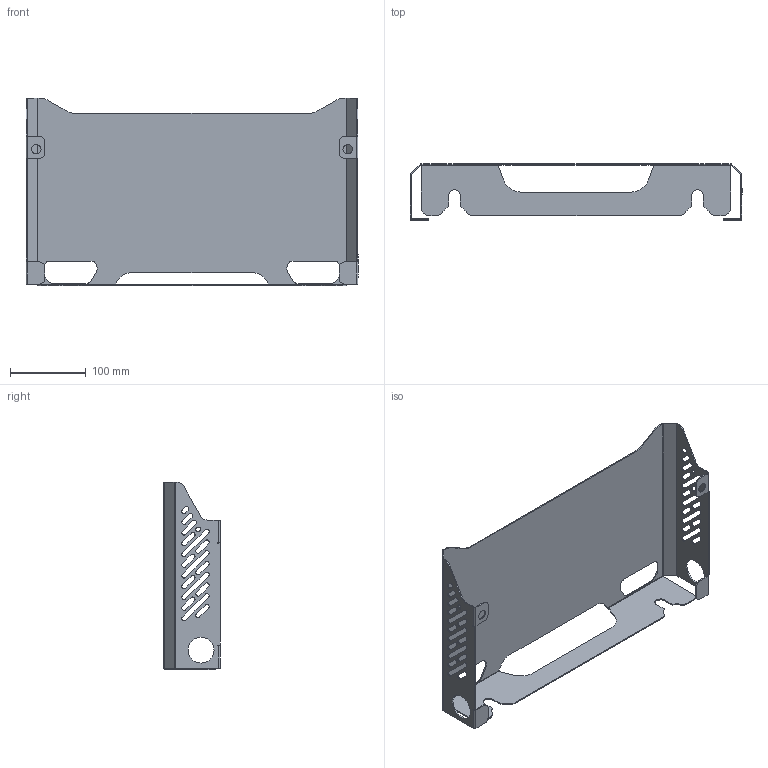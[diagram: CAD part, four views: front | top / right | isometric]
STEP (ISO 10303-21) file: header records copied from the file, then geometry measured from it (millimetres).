
FILE_DESCRIPTION (( 'STEP AP203' ), '1' );
FILE_NAME ('P2.IP55.SIZE8-DripHood (ENVELOPE).STEP', '2022-03-16T10:40:10', ( '' ), ( '' ), 'SwSTEP 2.0', 'SolidWorks 2021', '' );
FILE_SCHEMA (( 'CONFIG_CONTROL_DESIGN' ));
Length unit declared in the file: millimetre
Products named in the file (1): P2.IP55.SIZE8-DripHood (ENVELOPE)
Bounding box: 437.12 x 73.94 x 247.25 mm (x, y, z)
Volume: 204195.9 mm3; surface area: 279827.8 mm2
Topology: 1 solids, 1 shells, 352 faces, 976 edges, 624 vertices
Faces by surface type: cylinder 180, plane 168, bspline 4
Entity records: 11531 total; most frequent: CARTESIAN_POINT 2035, DIRECTION 2016, ORIENTED_EDGE 1952, EDGE_CURVE 976, AXIS2_PLACEMENT_3D 705, VERTEX_POINT 624, VECTOR 606, LINE 606
